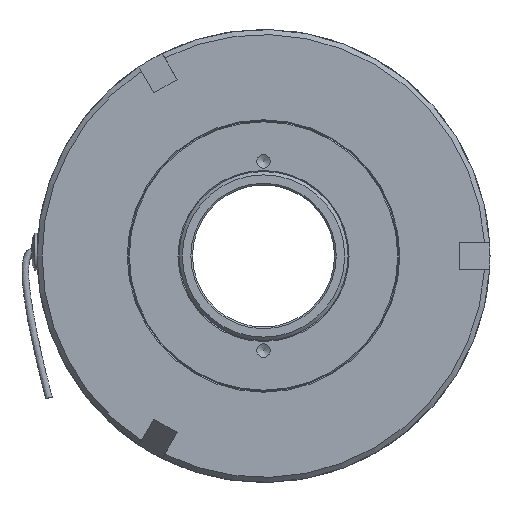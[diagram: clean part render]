
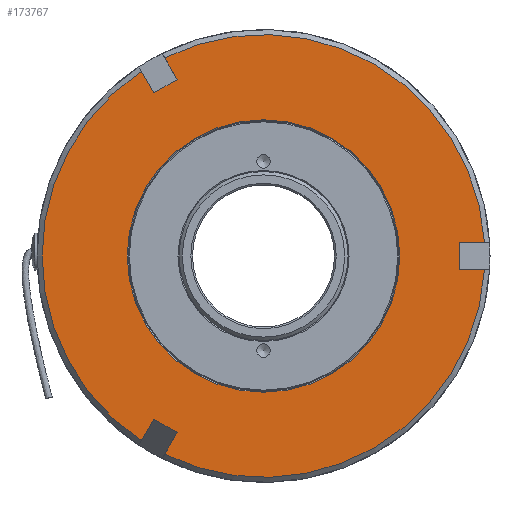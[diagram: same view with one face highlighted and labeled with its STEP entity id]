
A CAD part, left-side view. The second image highlights one B-rep face of the part: STEP entity #173767.
In plain terms, the highlighted planar face has unit normal (-1, 0, 0).
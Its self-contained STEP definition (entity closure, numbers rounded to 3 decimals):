
#173646=CARTESIAN_POINT('',(-33.,40.3,0.));
#173647=VERTEX_POINT('',#173646);
#173648=CARTESIAN_POINT('',(-33.,0.,0.));
#173649=DIRECTION('',(-1.0,0.0,0.0));
#173650=DIRECTION('',(0.0,-1.0,0.0));
#173651=AXIS2_PLACEMENT_3D('',#173648,#173649,#173650);
#173652=CIRCLE('',#173651,40.3);
#173653=EDGE_CURVE('',#173647,#173647,#173652,.T.);
#173658=CARTESIAN_POINT('',(-33.,52.75,0.));
#173659=DIRECTION('',(-1.0,0.0,0.0));
#173660=DIRECTION('',(0.0,0.0,1.0));
#173661=AXIS2_PLACEMENT_3D('',#173658,#173659,#173660);
#173662=PLANE('',#173661);
#173663=CARTESIAN_POINT('',(-33.,29.225,58.619));
#173664=VERTEX_POINT('',#173663);
#173665=CARTESIAN_POINT('',(-33.,25.536,52.229));
#173666=VERTEX_POINT('',#173665);
#173667=CARTESIAN_POINT('',(-33.,29.225,58.619));
#173668=DIRECTION('',(0.0,-0.5,-0.866));
#173669=VECTOR('',#173668,7.378);
#173670=LINE('',#173667,#173669);
#173671=EDGE_CURVE('',#173664,#173666,#173670,.T.);
#173672=ORIENTED_EDGE('',*,*,#173671,.T.);
#173673=CARTESIAN_POINT('',(-33.,32.464,48.229));
#173674=VERTEX_POINT('',#173673);
#173675=CARTESIAN_POINT('',(-33.,25.536,52.229));
#173676=DIRECTION('',(0.,0.866,-0.5));
#173677=VECTOR('',#173676,8.);
#173678=LINE('',#173675,#173677);
#173679=EDGE_CURVE('',#173666,#173674,#173678,.T.);
#173680=ORIENTED_EDGE('',*,*,#173679,.T.);
#173681=CARTESIAN_POINT('',(-33.,36.153,54.619));
#173682=VERTEX_POINT('',#173681);
#173683=CARTESIAN_POINT('',(-33.,32.464,48.229));
#173684=DIRECTION('',(0.0,0.5,0.866));
#173685=VECTOR('',#173684,7.378);
#173686=LINE('',#173683,#173685);
#173687=EDGE_CURVE('',#173674,#173682,#173686,.T.);
#173688=ORIENTED_EDGE('',*,*,#173687,.T.);
#173689=CARTESIAN_POINT('',(-33.,36.153,-54.619));
#173690=VERTEX_POINT('',#173689);
#173691=CARTESIAN_POINT('',(-33.,0.,0.));
#173692=DIRECTION('',(1.0,0.0,0.0));
#173693=DIRECTION('',(0.0,1.0,0.0));
#173694=AXIS2_PLACEMENT_3D('',#173691,#173692,#173693);
#173695=CIRCLE('',#173694,65.5);
#173696=EDGE_CURVE('',#173690,#173682,#173695,.T.);
#173697=ORIENTED_EDGE('',*,*,#173696,.F.);
#173698=CARTESIAN_POINT('',(-33.,32.464,-48.229));
#173699=VERTEX_POINT('',#173698);
#173700=CARTESIAN_POINT('',(-33.,36.153,-54.619));
#173701=DIRECTION('',(0.0,-0.5,0.866));
#173702=VECTOR('',#173701,7.378);
#173703=LINE('',#173700,#173702);
#173704=EDGE_CURVE('',#173690,#173699,#173703,.T.);
#173705=ORIENTED_EDGE('',*,*,#173704,.T.);
#173706=CARTESIAN_POINT('',(-33.,25.536,-52.229));
#173707=VERTEX_POINT('',#173706);
#173708=CARTESIAN_POINT('',(-33.,32.464,-48.229));
#173709=DIRECTION('',(0.,-0.866,-0.5));
#173710=VECTOR('',#173709,8.);
#173711=LINE('',#173708,#173710);
#173712=EDGE_CURVE('',#173699,#173707,#173711,.T.);
#173713=ORIENTED_EDGE('',*,*,#173712,.T.);
#173714=CARTESIAN_POINT('',(-33.,29.225,-58.619));
#173715=VERTEX_POINT('',#173714);
#173716=CARTESIAN_POINT('',(-33.,25.536,-52.229));
#173717=DIRECTION('',(0.0,0.5,-0.866));
#173718=VECTOR('',#173717,7.378);
#173719=LINE('',#173716,#173718);
#173720=EDGE_CURVE('',#173707,#173715,#173719,.T.);
#173721=ORIENTED_EDGE('',*,*,#173720,.T.);
#173722=CARTESIAN_POINT('',(-33.,-65.378,-4.0));
#173723=VERTEX_POINT('',#173722);
#173724=CARTESIAN_POINT('',(-33.,0.,0.));
#173725=DIRECTION('',(1.0,0.0,0.0));
#173726=DIRECTION('',(0.0,1.0,0.0));
#173727=AXIS2_PLACEMENT_3D('',#173724,#173725,#173726);
#173728=CIRCLE('',#173727,65.5);
#173729=EDGE_CURVE('',#173723,#173715,#173728,.T.);
#173730=ORIENTED_EDGE('',*,*,#173729,.F.);
#173731=CARTESIAN_POINT('',(-33.,-58.,-4.0));
#173732=VERTEX_POINT('',#173731);
#173733=CARTESIAN_POINT('',(-33.,-65.378,-4.0));
#173734=DIRECTION('',(0.0,1.0,0.0));
#173735=VECTOR('',#173734,7.378);
#173736=LINE('',#173733,#173735);
#173737=EDGE_CURVE('',#173723,#173732,#173736,.T.);
#173738=ORIENTED_EDGE('',*,*,#173737,.T.);
#173739=CARTESIAN_POINT('',(-33.,-58.,4.0));
#173740=VERTEX_POINT('',#173739);
#173741=CARTESIAN_POINT('',(-33.,-58.,-4.0));
#173742=DIRECTION('',(0.0,0.0,1.0));
#173743=VECTOR('',#173742,8.0);
#173744=LINE('',#173741,#173743);
#173745=EDGE_CURVE('',#173732,#173740,#173744,.T.);
#173746=ORIENTED_EDGE('',*,*,#173745,.T.);
#173747=CARTESIAN_POINT('',(-33.,-65.378,4.0));
#173748=VERTEX_POINT('',#173747);
#173749=CARTESIAN_POINT('',(-33.,-58.,4.0));
#173750=DIRECTION('',(0.0,-1.0,0.0));
#173751=VECTOR('',#173750,7.378);
#173752=LINE('',#173749,#173751);
#173753=EDGE_CURVE('',#173740,#173748,#173752,.T.);
#173754=ORIENTED_EDGE('',*,*,#173753,.T.);
#173755=CARTESIAN_POINT('',(-33.,0.,0.));
#173756=DIRECTION('',(1.0,0.0,0.0));
#173757=DIRECTION('',(0.0,1.0,0.0));
#173758=AXIS2_PLACEMENT_3D('',#173755,#173756,#173757);
#173759=CIRCLE('',#173758,65.5);
#173760=EDGE_CURVE('',#173664,#173748,#173759,.T.);
#173761=ORIENTED_EDGE('',*,*,#173760,.F.);
#173762=EDGE_LOOP('',(#173672,#173680,#173688,#173697,#173705,#173713,#173721,#173730,#173738,#173746,#173754,#173761));
#173763=FACE_OUTER_BOUND('',#173762,.T.);
#173764=ORIENTED_EDGE('',*,*,#173653,.F.);
#173765=EDGE_LOOP('',(#173764));
#173766=FACE_BOUND('',#173765,.T.);
#173767=ADVANCED_FACE('',(#173763,#173766),#173662,.T.);
